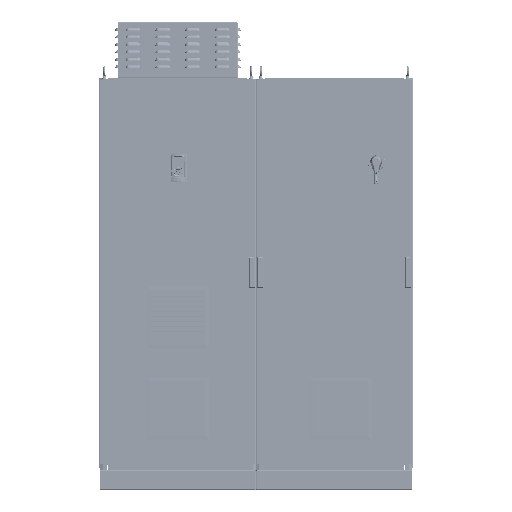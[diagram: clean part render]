
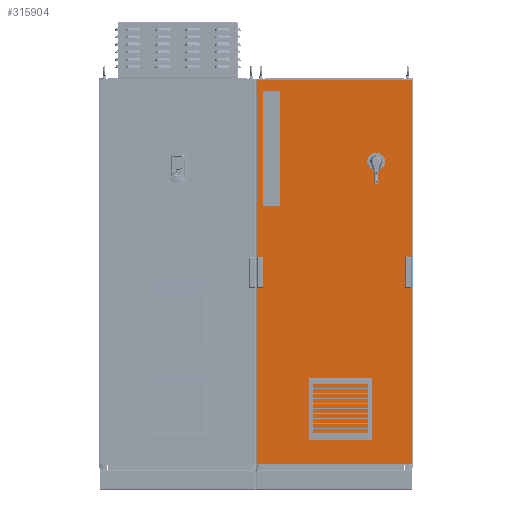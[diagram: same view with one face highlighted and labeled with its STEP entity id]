
A CAD part, top view. The second image highlights one B-rep face of the part: STEP entity #315904.
In plain terms, the highlighted planar face has unit normal (0, 0, 1).
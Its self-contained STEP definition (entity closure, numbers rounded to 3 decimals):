
#5879 = VECTOR ( 'NONE', #276598, 1000. ) ;
#7972 = VECTOR ( 'NONE', #207032, 1000. ) ;
#12684 = DIRECTION ( 'NONE',  ( 1., 0., 0. ) ) ;
#14382 = DIRECTION ( 'NONE',  ( 0., -1., 0. ) ) ;
#16140 = CARTESIAN_POINT ( 'NONE',  ( 0., 1011.5, 300. ) ) ;
#19146 = VERTEX_POINT ( 'NONE', #306723 ) ;
#23676 = CARTESIAN_POINT ( 'NONE',  ( -363., 1090., 300. ) ) ;
#28365 = AXIS2_PLACEMENT_3D ( 'NONE', #16140, #73757, #274492 ) ;
#35621 = VERTEX_POINT ( 'NONE', #82384 ) ;
#39838 = LINE ( 'NONE', #287005, #183478 ) ;
#59741 = VECTOR ( 'NONE', #168081, 1000. ) ;
#67601 = VECTOR ( 'NONE', #360784, 1000. ) ;
#68965 = DIRECTION ( 'NONE',  ( 1., 0., 0. ) ) ;
#72309 = CARTESIAN_POINT ( 'NONE',  ( 397., 1995., 300. ) ) ;
#72321 = EDGE_CURVE ( 'NONE', #35621, #19146, #220243, .T. ) ;
#73757 = DIRECTION ( 'NONE',  ( 0., 0., 1. ) ) ;
#75283 = FACE_OUTER_BOUND ( 'NONE', #228272, .T. ) ;
#78243 = ORIENTED_EDGE ( 'NONE', *, *, #145042, .T. ) ;
#82384 = CARTESIAN_POINT ( 'NONE',  ( 397., 28., 300. ) ) ;
#86284 = VECTOR ( 'NONE', #12684, 1000. ) ;
#90305 = LINE ( 'NONE', #298559, #233861 ) ;
#91895 = ORIENTED_EDGE ( 'NONE', *, *, #242646, .T. ) ;
#105033 = EDGE_CURVE ( 'NONE', #165093, #298583, #311102, .T. ) ;
#106509 = ORIENTED_EDGE ( 'NONE', *, *, #174280, .F. ) ;
#120572 = CARTESIAN_POINT ( 'NONE',  ( -393.4, 1011.5, 300. ) ) ;
#124734 = FACE_BOUND ( 'NONE', #247645, .T. ) ;
#132971 = CARTESIAN_POINT ( 'NONE',  ( -397., 1995., 300. ) ) ;
#136497 = VERTEX_POINT ( 'NONE', #281331 ) ;
#136988 = VERTEX_POINT ( 'NONE', #132971 ) ;
#144010 = DIRECTION ( 'NONE',  ( -1., 0., 0. ) ) ;
#145042 = EDGE_CURVE ( 'NONE', #298583, #301347, #236806, .T. ) ;
#157446 = VERTEX_POINT ( 'NONE', #203876 ) ;
#160606 = LINE ( 'NONE', #120572, #7972 ) ;
#162580 = LINE ( 'NONE', #355107, #86284 ) ;
#165093 = VERTEX_POINT ( 'NONE', #233813 ) ;
#168081 = DIRECTION ( 'NONE',  ( 0., -1., 0. ) ) ;
#174280 = EDGE_CURVE ( 'NONE', #165093, #157446, #160606, .T. ) ;
#183478 = VECTOR ( 'NONE', #144010, 1000. ) ;
#203876 = CARTESIAN_POINT ( 'NONE',  ( -393.4, 933., 300. ) ) ;
#207032 = DIRECTION ( 'NONE',  ( 0., -1., 0. ) ) ;
#218762 = VECTOR ( 'NONE', #14382, 1000. ) ;
#218881 = CARTESIAN_POINT ( 'NONE',  ( -393.4, 1090., 300. ) ) ;
#220243 = LINE ( 'NONE', #72309, #67601 ) ;
#225736 = CARTESIAN_POINT ( 'NONE',  ( -397., 1995., 300. ) ) ;
#228272 = EDGE_LOOP ( 'NONE', ( #304988, #91895, #342514, #318546 ) ) ;
#233813 = CARTESIAN_POINT ( 'NONE',  ( -393.4, 1090., 300. ) ) ;
#233861 = VECTOR ( 'NONE', #68965, 1000. ) ;
#236806 = LINE ( 'NONE', #243957, #218762 ) ;
#242646 = EDGE_CURVE ( 'NONE', #19146, #136988, #39838, .T. ) ;
#243957 = CARTESIAN_POINT ( 'NONE',  ( -363., 1011.5, 300. ) ) ;
#245720 = PLANE ( 'NONE',  #28365 ) ;
#246383 = EDGE_CURVE ( 'NONE', #136988, #136497, #261720, .T. ) ;
#247645 = EDGE_LOOP ( 'NONE', ( #371289, #78243, #287649, #106509 ) ) ;
#261720 = LINE ( 'NONE', #225736, #59741 ) ;
#274492 = DIRECTION ( 'NONE',  ( 1., 0., 0. ) ) ;
#276598 = DIRECTION ( 'NONE',  ( 1., 0., 0. ) ) ;
#277017 = EDGE_CURVE ( 'NONE', #136497, #35621, #162580, .T. ) ;
#281331 = CARTESIAN_POINT ( 'NONE',  ( -397., 28., 300. ) ) ;
#287005 = CARTESIAN_POINT ( 'NONE',  ( -397., 1995., 300. ) ) ;
#287649 = ORIENTED_EDGE ( 'NONE', *, *, #330258, .F. ) ;
#298559 = CARTESIAN_POINT ( 'NONE',  ( -393.4, 933., 300. ) ) ;
#298583 = VERTEX_POINT ( 'NONE', #23676 ) ;
#301347 = VERTEX_POINT ( 'NONE', #355666 ) ;
#304988 = ORIENTED_EDGE ( 'NONE', *, *, #72321, .T. ) ;
#306723 = CARTESIAN_POINT ( 'NONE',  ( 397., 1995., 300. ) ) ;
#311102 = LINE ( 'NONE', #218881, #5879 ) ;
#315904 = ADVANCED_FACE ( 'NONE', ( #75283, #124734 ), #245720, .T. ) ;
#318546 = ORIENTED_EDGE ( 'NONE', *, *, #277017, .T. ) ;
#330258 = EDGE_CURVE ( 'NONE', #157446, #301347, #90305, .T. ) ;
#342514 = ORIENTED_EDGE ( 'NONE', *, *, #246383, .T. ) ;
#355107 = CARTESIAN_POINT ( 'NONE',  ( -397., 28., 300. ) ) ;
#355666 = CARTESIAN_POINT ( 'NONE',  ( -363., 933., 300. ) ) ;
#360784 = DIRECTION ( 'NONE',  ( 0., 1., 0. ) ) ;
#371289 = ORIENTED_EDGE ( 'NONE', *, *, #105033, .T. ) ;
